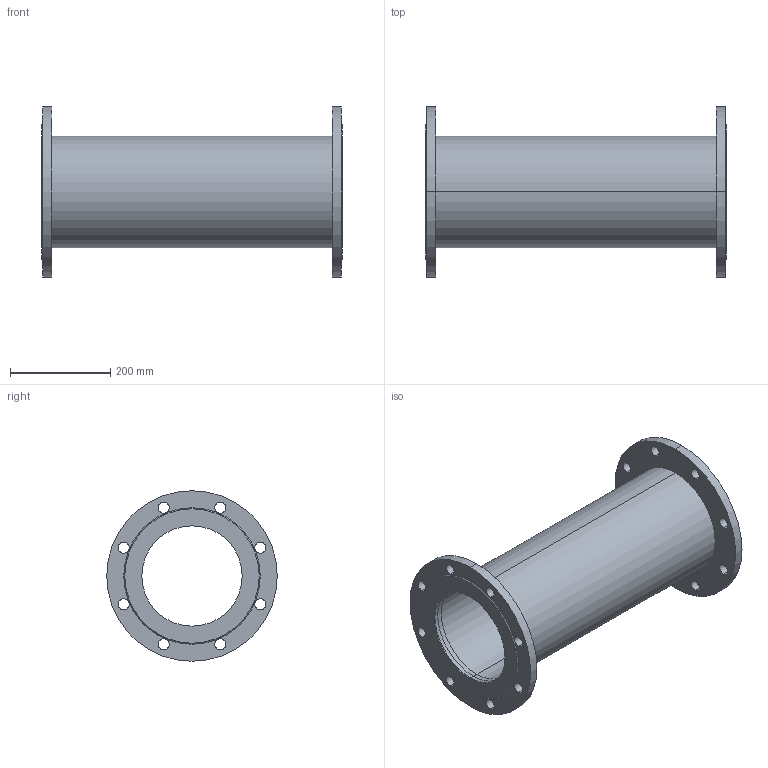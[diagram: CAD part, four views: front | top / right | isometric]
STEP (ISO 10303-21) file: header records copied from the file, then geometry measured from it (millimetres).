
FILE_DESCRIPTION(('STEP AP214'),'1');
FILE_NAME('U:/VDI-Daten/8500/8500_PN10_L600_DN200.STP','2012-06-12T13:38:15',(' '),(' '),'Spatial InterOp 3D',' ',' ');
FILE_SCHEMA(('automotive_design'));
Length unit declared in the file: millimetre
Products named in the file (5): 3D-Objekt
Bounding box: 600 x 340 x 340 mm (x, y, z)
Volume: 6360573.2 mm3; surface area: 1200519.9 mm2
Topology: 5 solids, 5 shells, 62 faces, 156 edges, 104 vertices
Faces by surface type: cylinder 48, plane 10, cone 4
Entity records: 2621 total; most frequent: DIRECTION 394, CARTESIAN_POINT 327, ORIENTED_EDGE 312, AXIS2_PLACEMENT_3D 171, EDGE_CURVE 156, EDGE_LOOP 104, VERTEX_POINT 104, CIRCLE 104
